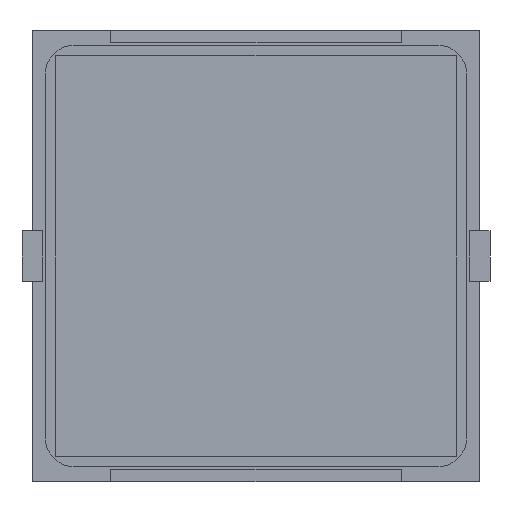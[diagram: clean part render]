
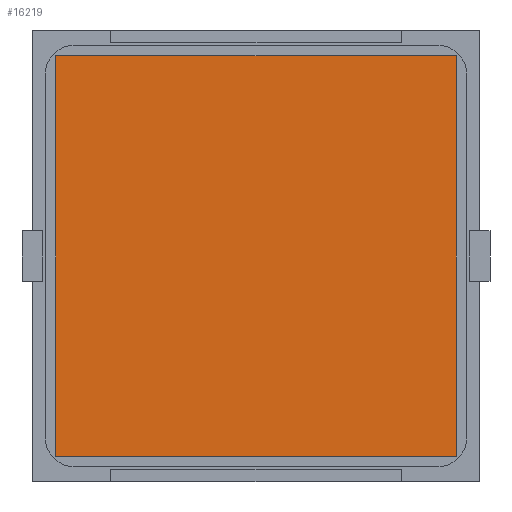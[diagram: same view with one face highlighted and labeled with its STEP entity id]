
A CAD part, front view. The second image highlights one B-rep face of the part: STEP entity #16219.
In plain terms, the highlighted planar face has unit normal (0, -1, 0).
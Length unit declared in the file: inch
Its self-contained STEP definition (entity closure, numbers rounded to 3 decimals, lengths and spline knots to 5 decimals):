
#66 = EDGE_CURVE ( 'NONE', #20964, #20515, #11217, .T. ) ;
#476 = CARTESIAN_POINT ( 'NONE',  ( -0.7874, -0.005, 0.7874 ) ) ;
#2384 = PLANE ( 'NONE',  #18341 ) ;
#6452 = EDGE_LOOP ( 'NONE', ( #20513, #8984, #21595, #17158 ) ) ;
#6828 = VECTOR ( 'NONE', #16218, 39.37008 ) ;
#7627 = VECTOR ( 'NONE', #18561, 39.37008 ) ;
#8002 = LINE ( 'NONE', #20163, #7627 ) ;
#8984 = ORIENTED_EDGE ( 'NONE', *, *, #66, .F. ) ;
#9602 = LINE ( 'NONE', #10963, #13810 ) ;
#10594 = VERTEX_POINT ( 'NONE', #19242 ) ;
#10963 = CARTESIAN_POINT ( 'NONE',  ( -0.7874, -0.005, -0.7874 ) ) ;
#11217 = LINE ( 'NONE', #18055, #17705 ) ;
#11276 = VERTEX_POINT ( 'NONE', #19729 ) ;
#11661 = CARTESIAN_POINT ( 'NONE',  ( 0.7874, -0.005, -0.7874 ) ) ;
#12764 = CARTESIAN_POINT ( 'NONE',  ( -0.7874, -0.005, 0.7874 ) ) ;
#13810 = VECTOR ( 'NONE', #21140, 39.37008 ) ;
#15482 = EDGE_CURVE ( 'NONE', #20515, #10594, #9602, .T. ) ;
#16025 = FACE_OUTER_BOUND ( 'NONE', #6452, .T. ) ;
#16218 = DIRECTION ( 'NONE',  ( 1., 0., 0. ) ) ;
#16219 = ADVANCED_FACE ( 'NONE', ( #16025 ), #2384, .F. ) ;
#17158 = ORIENTED_EDGE ( 'NONE', *, *, #17283, .F. ) ;
#17283 = EDGE_CURVE ( 'NONE', #10594, #11276, #21118, .T. ) ;
#17705 = VECTOR ( 'NONE', #19508, 39.37008 ) ;
#18055 = CARTESIAN_POINT ( 'NONE',  ( -0.7874, -0.005, -0.7874 ) ) ;
#18341 = AXIS2_PLACEMENT_3D ( 'NONE', #476, #21144, #19128 ) ;
#18561 = DIRECTION ( 'NONE',  ( 0., 0., -1. ) ) ;
#19128 = DIRECTION ( 'NONE',  ( 0., 0., 1. ) ) ;
#19242 = CARTESIAN_POINT ( 'NONE',  ( -0.7874, -0.005, 0.7874 ) ) ;
#19508 = DIRECTION ( 'NONE',  ( -1., 0., 0. ) ) ;
#19729 = CARTESIAN_POINT ( 'NONE',  ( 0.7874, -0.005, 0.7874 ) ) ;
#20163 = CARTESIAN_POINT ( 'NONE',  ( 0.7874, -0.005, -0.7874 ) ) ;
#20513 = ORIENTED_EDGE ( 'NONE', *, *, #15482, .F. ) ;
#20515 = VERTEX_POINT ( 'NONE', #20638 ) ;
#20638 = CARTESIAN_POINT ( 'NONE',  ( -0.7874, -0.005, -0.7874 ) ) ;
#20939 = EDGE_CURVE ( 'NONE', #11276, #20964, #8002, .T. ) ;
#20964 = VERTEX_POINT ( 'NONE', #11661 ) ;
#21118 = LINE ( 'NONE', #12764, #6828 ) ;
#21140 = DIRECTION ( 'NONE',  ( 0., 0., 1. ) ) ;
#21144 = DIRECTION ( 'NONE',  ( 0., 1., 0. ) ) ;
#21595 = ORIENTED_EDGE ( 'NONE', *, *, #20939, .F. ) ;
